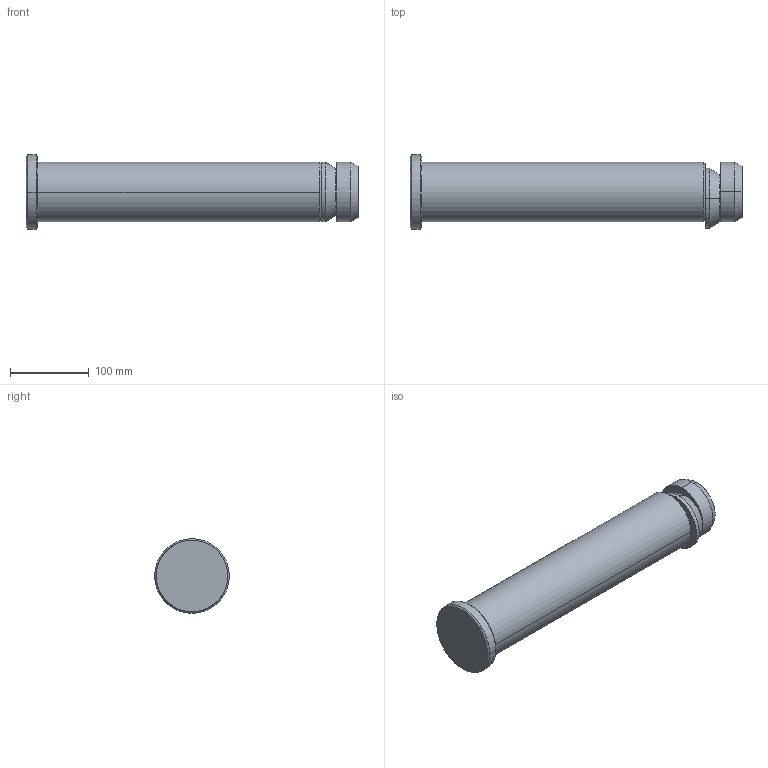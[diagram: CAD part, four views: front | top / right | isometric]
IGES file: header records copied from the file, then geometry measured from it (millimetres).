
Start section: START RECORD GO HERE.
Global section: file name: 395A-076-422.igs; native system: DASSAULT SYSTEMES CATIA V5 R20 - www.3ds.com; preprocessor: CATIA Version 5 Release 20 ; author: Utente; organization: NB04-ASUS; date: 20200409.142623; units: millimetre
Bounding box: 422 x 95 x 95 mm (x, y, z)
Surface area: 121150.7 mm2 (no closed solid volume)
Topology: 0 solids, 0 shells, 43 faces, 189 edges, 189 vertices
Faces by surface type: revolution 30, extrusion 13
